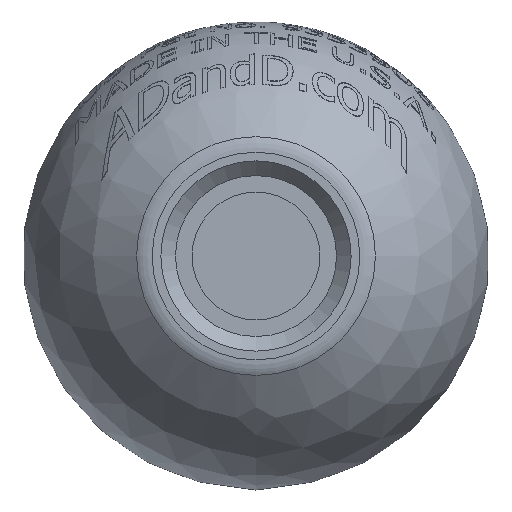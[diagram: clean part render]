
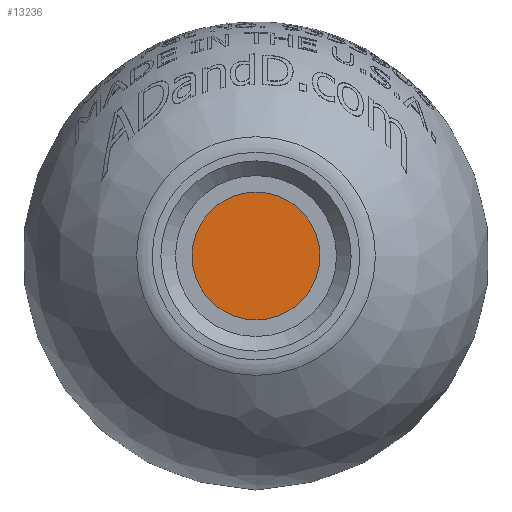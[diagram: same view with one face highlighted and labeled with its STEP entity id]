
A CAD part, front view. The second image highlights one B-rep face of the part: STEP entity #13236.
In plain terms, the highlighted planar face has unit normal (0, -1, 0) as drawn and (0, 0, -1) by its records, which use the part's own axes.
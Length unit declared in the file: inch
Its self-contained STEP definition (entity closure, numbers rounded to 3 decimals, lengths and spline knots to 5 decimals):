
#2126=PLANE('',#14385);
#2874=FACE_OUTER_BOUND('',#3707,.T.);
#3707=EDGE_LOOP('',(#12345));
#5040=CIRCLE('',#14384,0.14748);
#6372=VERTEX_POINT('',#30302);
#8365=EDGE_CURVE('',#6372,#6372,#5040,.T.);
#12345=ORIENTED_EDGE('',*,*,#8365,.F.);
#13236=ADVANCED_FACE('',(#2874),#2126,.F.);
#14384=AXIS2_PLACEMENT_3D('',#30303,#17254,#17255);
#14385=AXIS2_PLACEMENT_3D('',#30304,#17256,#17257);
#17254=DIRECTION('center_axis',(0.,0.,1.));
#17255=DIRECTION('ref_axis',(-1.,0.,0.));
#17256=DIRECTION('center_axis',(0.,0.,1.));
#17257=DIRECTION('ref_axis',(1.,0.,0.));
#30302=CARTESIAN_POINT('',(-0.95222,0.38442,0.));
#30303=CARTESIAN_POINT('Origin',(-1.0997,0.38442,0.));
#30304=CARTESIAN_POINT('Origin',(-1.0997,0.38442,0.));
